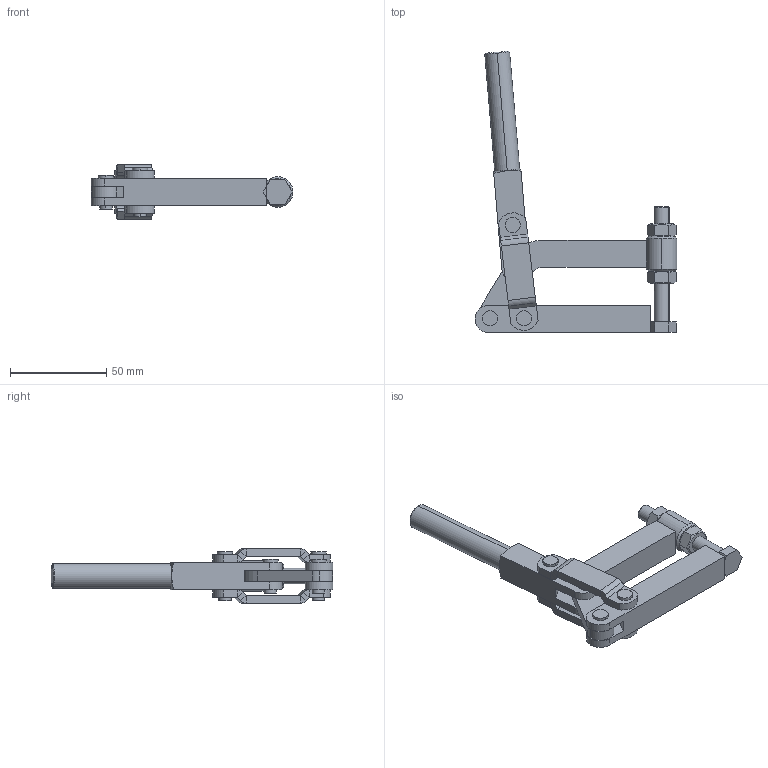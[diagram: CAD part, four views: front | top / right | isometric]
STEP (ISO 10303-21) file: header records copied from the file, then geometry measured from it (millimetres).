
FILE_DESCRIPTION (( 'STEP AP203' ), '1' );
FILE_NAME ('KF-02 MP.STEP', '2011-05-17T14:16:48', ( 'Usuario' ), ( '' ), 'SwSTEP 2.0', 'SolidWorks 2011', '' );
FILE_SCHEMA (( 'CONFIG_CONTROL_DESIGN' ));
Length unit declared in the file: millimetre
Products named in the file (11): PSB-M8; KF-02 MP; 02.10010; 08.10015; 12.50010; 01.20004; 20.20004; 03.15010_Montagem; 06.50019; 06.50018; 11.50002
Assembly tree (14 placements, depth 3):
  KF-02 MP
    08.10015  x2
    01.20004
    06.50018  x2
    03.15010_Montagem
    06.50019  x2
    PSB-M8
      20.20004
      12.50010
      11.50002  x2
    02.10010
Bounding box: 105.1 x 146.53 x 28.29 mm (x, y, z)
Volume: 65302.1 mm3; surface area: 30382.7 mm2
Topology: 13 solids, 13 shells, 248 faces, 559 edges, 338 vertices
Faces by surface type: plane 122, cylinder 88, cone 36, sphere 2
Entity records: 6116 total; most frequent: CARTESIAN_POINT 923, DIRECTION 891, ORIENTED_EDGE 758, EDGE_CURVE 379, AXIS2_PLACEMENT_3D 340, VERTEX_POINT 236, VECTOR 211, LINE 211
